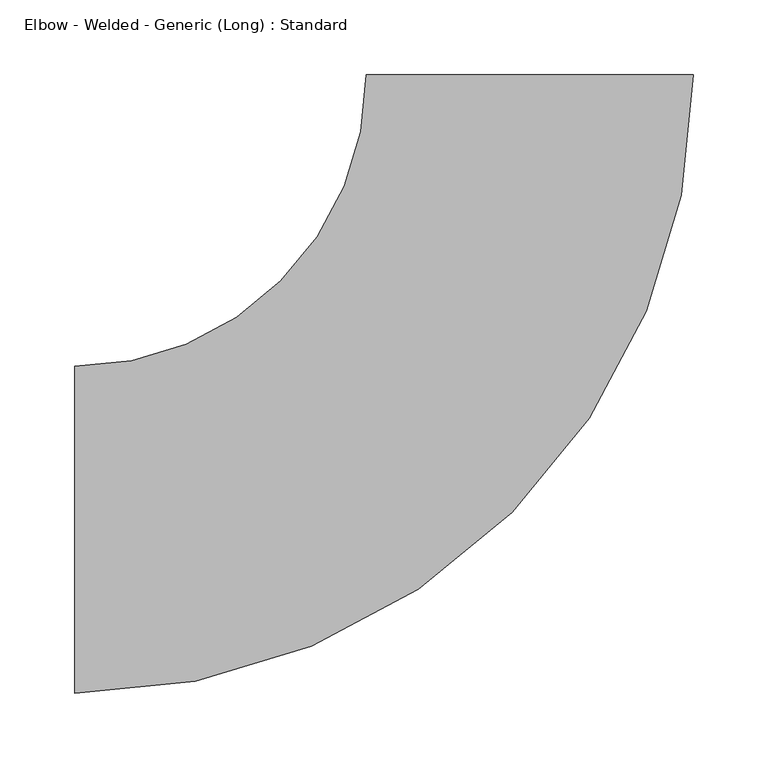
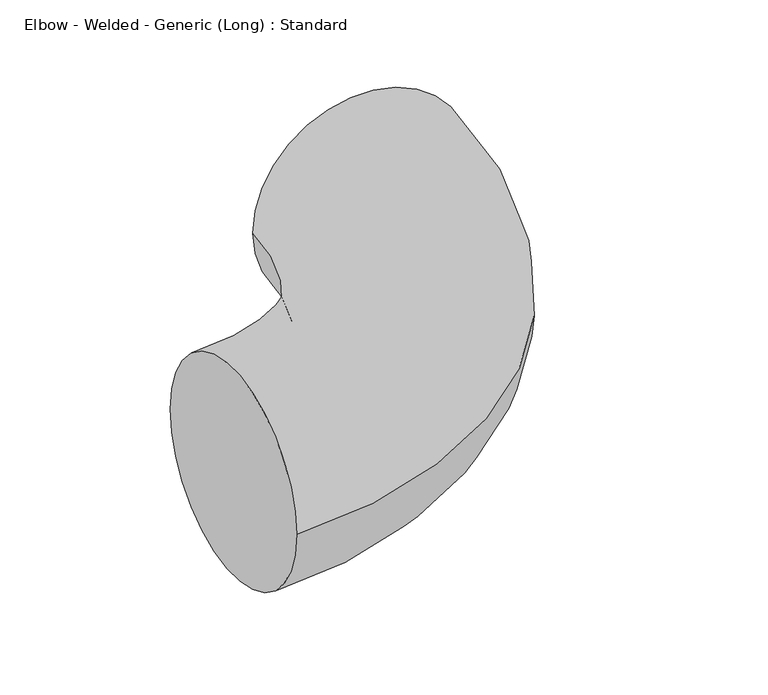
"""IFC4 building model written with IfcOpenShell, lengths in millimetres: pipe fitting geometry, Elbow - Welded - Generic (Long) : Standard."""

from ifc_helpers import new_model, si_unit, point, frame, origin, place, context, project, spatial, circle_curve, ellipse_curve, trimmed, source, transform, mapped, element, save
from ifc_brep_helpers import plane_surface, revolved_surface, advanced_brep


def elbow_welded_generic_long_standard_b36292d7(model_context):
    return source(origin(), model_context, "Body", "AdvancedBrep", [
        advanced_brep(
        [(-304.8, -109.5375, 0.0), (-304.8, 109.5375, 0.0), (109.5373483, 304.8000545, 0.0), (-109.5376517, 304.7999455, 0.0)],
        [
            (0, 1, circle_curve(frame((-304.8, 0.0, 0.0), z_axis=(-1.0, 0.0, 0.0), x_axis=(0.0, 1.0, 0.0)), 109.5375)),
            (1, 0, circle_curve(frame((-304.8, 0.0, 0.0), z_axis=(-1.0, 0.0, 0.0), x_axis=(0.0, 1.0, 0.0)), 109.5375)),
            (2, 3, circle_curve(frame((-0.0001517, 304.8, 0.0), z_axis=(-4.977085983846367e-07, 0.9999999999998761, 0.0), x_axis=(-0.9999999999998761, -4.977085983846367e-07, 0.0)), 109.5375)),
            (3, 2, circle_curve(frame((-0.0001517, 304.8, 0.0), z_axis=(-4.977085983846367e-07, 0.9999999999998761, 0.0), x_axis=(-0.9999999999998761, -4.977085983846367e-07, 0.0)), 109.5375)),
            (3, 1, circle_curve(frame((-304.8, 304.7998483, 0.0), z_axis=(0.0, 0.0, -1.0), x_axis=(0.0, -1.0, 0.0)), 195.2623483)),
            (0, 2, circle_curve(frame((-304.8, 304.7998483, 0.0), z_axis=(0.0, 0.0, 1.0), x_axis=(0.0, -1.0, 0.0)), 414.3373483)),
        ],
        [
            plane_surface(frame((-304.8, 0.0, 0.0), z_axis=(-1.0, 0.0, 0.0), x_axis=(0.0, 0.0, 1.0))),
            plane_surface(frame((-0.0001517, 304.8, 0.0), z_axis=(-4.977085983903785e-07, 0.9999999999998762, 0.0), x_axis=(0.0, 0.0, 1.0))),
            revolved_surface(trimmed(ellipse_curve(frame((-304.8, 0.0, 0.0), z_axis=(-1.0, 0.0, 0.0), x_axis=(0.0, 1.0, 0.0)), 109.5375, 109.5375), [point((-304.8, -109.5375, 0.0))], [point((-304.8, 109.5375, 0.0))], True, "CARTESIAN"), (-304.8, 304.7998483, 0.0), (0.0, 0.0, 1.0)),
            revolved_surface(trimmed(ellipse_curve(frame((-304.8, 0.0, 0.0), z_axis=(-1.0, 0.0, 0.0), x_axis=(0.0, 1.0, 0.0)), 109.5375, 109.5375), [point((-304.8, 109.5375, 0.0))], [point((-304.8, -109.5375, 0.0))], True, "CARTESIAN"), (-304.8, 304.7998483, 0.0), (0.0, 0.0, 1.0)),
        ],
        [
            (0, [[1, 2]]),
            (1, [[3, 4]]),
            (2, [[5, -1, 6, -4]]),
            (3, [[-6, -2, -5, -3]]),
        ],
    ),
    ])


if __name__ == "__main__":
    model = new_model("IFC4")
    model_context = context("Model", 3, world=origin())
    ifc_project = project(units=[si_unit("LENGTHUNIT", "METRE", prefix="MILLI")], contexts=[model_context])
    site = spatial("IfcSite", under=ifc_project)
    building = spatial("IfcBuilding", under=site)
    placement = place(None, origin())
    elbow_welded_generic_long_standard_shape = elbow_welded_generic_long_standard_b36292d7(model_context)
    element("IfcPipeFitting", 1, ObjectType="Elbow - Welded - Generic (Long) : Standard", at=placement, inside=building, context=model_context, shape_type="MappedRepresentation", body=[
        mapped(elbow_welded_generic_long_standard_shape, transform((0.0, 0.0, 0.0), x_axis=(1.0, 0.0, 0.0), y_axis=(0.0, 1.0, 0.0), z_axis=(0.0, 0.0, 1.0))),
    ])
    save(model, "model.ifc")
